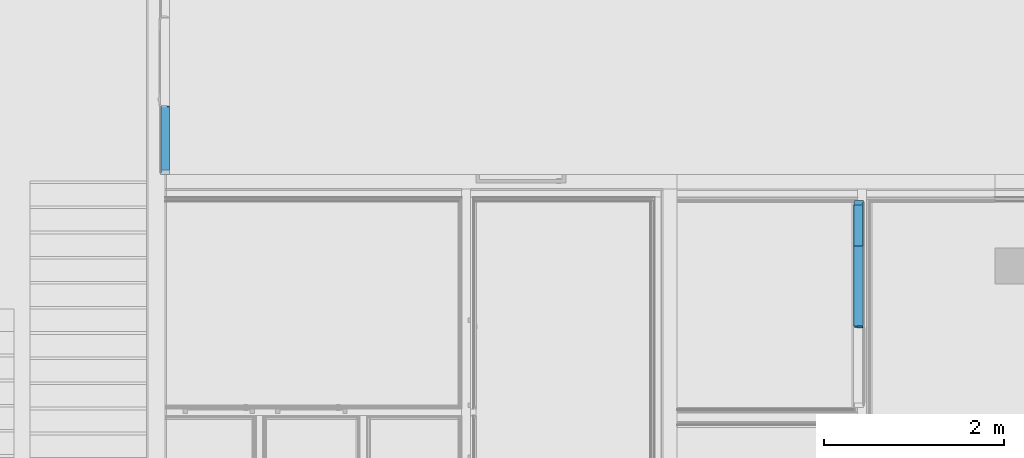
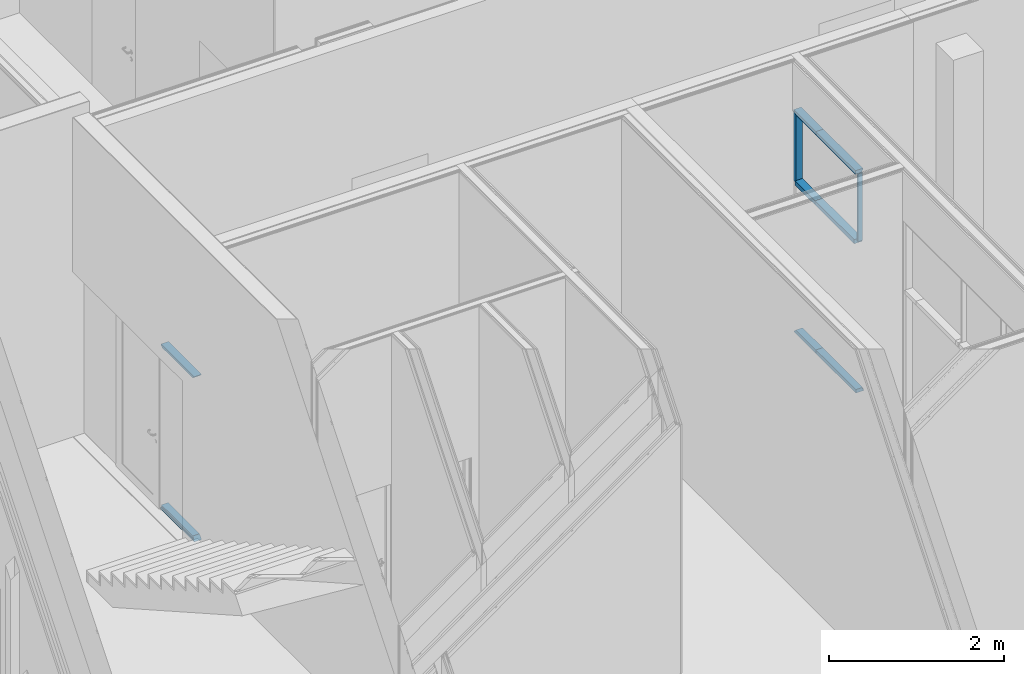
# One storey, part 96 of 260: 10 members, 2 elements without a shape of their own.
"""IFC2X3 building model written with IfcOpenShell, lengths in millimetres."""

from ifc_helpers import new_model, entity, si_unit, converted_unit, derived_unit, money_unit, direction, frame, origin_with_axes, place, context, subcontext, project, spatial, faceted_brep, material, type_object, element, aggregate, save


model = new_model("IFC2X3")

# Units and contexts
model_context = context("Model", 3, precision=0.01, world=origin_with_axes(), true_north=direction((0.0, 1.0)))
body_context = subcontext(model_context, "Body", "Model", "MODEL_VIEW")
ifc_project = project(units=[si_unit("LENGTHUNIT", "METRE", prefix="MILLI"), si_unit("AREAUNIT", "SQUARE_METRE"), si_unit("VOLUMEUNIT", "CUBIC_METRE"), converted_unit("PLANEANGLEUNIT", "DEGREE", entity("IfcPlaneAngleMeasure", 0.0174532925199), si_unit("PLANEANGLEUNIT", "RADIAN"), dimensions=[0, 0, 0, 0, 0, 0, 0]), money_unit("EUR"), converted_unit("TIMEUNIT", "Year", entity("IfcTimeMeasure", 31556926.0), si_unit("TIMEUNIT", "SECOND"), dimensions=[0, 0, 1, 0, 0, 0, 0]), si_unit("MASSUNIT", "GRAM", prefix="KILO"), si_unit("THERMODYNAMICTEMPERATUREUNIT", "DEGREE_CELSIUS"), si_unit("LUMINOUSINTENSITYUNIT", "LUMEN"), si_unit("ENERGYUNIT", "JOULE", prefix="MEGA"), derived_unit("THERMALCONDUCTANCEUNIT", [(si_unit("POWERUNIT", "WATT"), 1), (si_unit("LENGTHUNIT", "METRE"), -1), (si_unit("THERMODYNAMICTEMPERATUREUNIT", "KELVIN"), -1)]), derived_unit("SPECIFICHEATCAPACITYUNIT", [(si_unit("ENERGYUNIT", "JOULE"), 1), (si_unit("MASSUNIT", "GRAM", prefix="KILO"), -1), (si_unit("THERMODYNAMICTEMPERATUREUNIT", "KELVIN"), -1)]), derived_unit("MASSDENSITYUNIT", [(si_unit("MASSUNIT", "GRAM", prefix="KILO"), 1), (si_unit("VOLUMEUNIT", "CUBIC_METRE"), -1)])], contexts=[model_context])

# Site, building, storey
site_placement = place(None, origin_with_axes())
site = spatial("IfcSite", under=ifc_project, at=site_placement, Name="Kolde pst 67a", CompositionType="ELEMENT")
building_placement = place(site_placement, origin_with_axes())
building = spatial("IfcBuilding", under=site, at=building_placement, Name="Riigigümnaasium", CompositionType="ELEMENT")
storey_placement = place(building_placement, origin_with_axes())
storey = spatial("IfcBuildingStorey", under=building, at=storey_placement, Name="1. korrus", CompositionType="ELEMENT", Elevation=0.0)

# Curtain wall, members
curtain_wall_type = type_object("IfcCurtainWallType", Name="Curtain Wall Type", PredefinedType="NOTDEFINED")
curtain_wall_1_placement = place(storey_placement, frame((3185.44852283, 58094.9979478, 0.0), z_axis=(0.0, 0.0, 1.0), x_axis=(1.0, 0.0, 0.0)))
curtain_wall_1 = element("IfcCurtainWall", 1, at=curtain_wall_1_placement, inside=storey, type_object=curtain_wall_type, Name="KLAASSEIN")
ifc_material_1 = material(Name="_GENEERILINE MATERJAL")
member_type_1 = type_object("IfcMemberType", Name="Boundary Frame 50 x 100", PredefinedType="MEMBER")
member_1_placement = place(curtain_wall_1_placement, frame((0.0, -500.0, 2300.00008941), z_axis=(0.0, -1.0, 0.0), x_axis=(0.0, 0.0, 1.0)))
member_1 = element("IfcMember", 2, at=member_1_placement, type_object=member_type_1, material=ifc_material_1, Name="RF RAAM SERV-192", ObjectType="MEMBER", context=body_context, shape_type="Brep", body=[
    faceted_brep([(-50.0, -10.0, 0.0), (-50.0, -100.0, 0.0), (-50.0, -100.0, 705.000008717), (-50.0, -10.0, 705.000008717), (-25.0, -10.0, 0.0), (-25.0, 0.0, 0.0), (0.0, 0.0, 0.0), (0.0, -100.0, 0.0), (0.0, -100.0, 755.000008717), (-25.0, -10.0, 730.000008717), (0.0, 0.0, 755.000008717), (-25.0, 0.0, 730.000008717)], [[[0, 1, 2, 3]], [[4, 5, 6, 7, 1, 0]], [[1, 7, 8, 2]], [[9, 3, 2, 8, 10, 11]], [[9, 4, 0, 3]], [[5, 4, 9, 11]], [[11, 10, 6, 5]], [[7, 6, 10, 8]]]),
])
member_2_placement = place(curtain_wall_1_placement, frame((0.0, -500.0, 0.0), z_axis=(0.0, -1.0, 0.0), x_axis=(0.0, 0.0, 1.0)))
member_2 = element("IfcMember", 3, at=member_2_placement, type_object=member_type_1, material=ifc_material_1, Name="RF RAAM SERV-190", ObjectType="MEMBER", context=body_context, shape_type="Brep", body=[
    faceted_brep([(50.0, -10.0, -10.0), (50.0, -10.0, 705.000008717), (50.0, -100.0, 705.000008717), (50.0, -100.0, -10.0), (25.0, -10.0, 730.000008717), (25.0, -10.0, -10.0), (25.0, 0.0, 730.000008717), (0.0, 0.0, 755.000008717), (0.0, -100.0, 755.000008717), (0.0, -100.0, -10.0), (0.0, 0.0, -10.0), (25.0, 0.0, -10.0)], [[[0, 1, 2, 3]], [[4, 1, 0, 5]], [[4, 6, 7, 8, 2, 1]], [[3, 2, 8, 9]], [[5, 0, 3, 9, 10, 11]], [[11, 6, 4, 5]], [[6, 11, 10, 7]], [[9, 8, 7, 10]]]),
])
aggregate(curtain_wall_1, [member_1, member_2])

curtain_wall_2_placement = place(storey_placement, frame((11015.6058867, 55913.7308132, 399.999999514), z_axis=(0.0, 0.0, 1.0), x_axis=(1.0, 0.0, 0.0)))
curtain_wall_2 = element("IfcCurtainWall", 4, at=curtain_wall_2_placement, inside=storey, type_object=curtain_wall_type, Name="KLAASSEIN")
member_3_placement = place(curtain_wall_2_placement, frame((0.00145192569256, 130.630049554, 4.86439333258e-07), z_axis=(-1.11147909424e-05, -0.999999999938, 0.0), x_axis=(0.0, 0.0, 1.0)))
member_3 = element("IfcMember", 5, at=member_3_placement, type_object=member_type_1, material=ifc_material_1, Name="RF RAAM SERV-341", ObjectType="MEMBER", context=body_context, shape_type="Brep", body=[
    faceted_brep([(50.0, 10.0, 0.0), (50.0, 100.0, 2.91322521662e-10), (50.0, 99.9999999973, 910.0), (50.0, 9.99999999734, 910.0), (25.0, 10.0, 0.0), (25.0, 0.0, 0.0), (0.0, 0.0, 0.0), (0.0, 100.0, 2.91322521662e-10), (0.0, 99.9999999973, 910.0), (25.0, 9.99999999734, 910.0), (0.0, -2.65742983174e-09, 910.0), (25.0, -2.65742983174e-09, 910.0)], [[[0, 1, 2, 3]], [[4, 5, 6, 7, 1, 0]], [[1, 7, 8, 2]], [[9, 3, 2, 8, 10, 11]], [[9, 4, 0, 3]], [[5, 4, 9, 11]], [[11, 10, 6, 5]], [[7, 6, 10, 8]]]),
])
member_4_placement = place(curtain_wall_2_placement, frame((-0.00855138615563, -769.36995039, 3090.00002835), z_axis=(1.11147909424e-05, 0.999999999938, 0.0), x_axis=(0.0, 0.0, -1.0)))
member_4 = element("IfcMember", 6, at=member_4_placement, type_object=member_type_1, material=ifc_material_1, Name="RF RAAM SERV-346", ObjectType="MEMBER", context=body_context, shape_type="Brep", body=[
    faceted_brep([(50.0, 10.0, 0.0), (50.0, 100.0, -2.91322521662e-10), (50.0, 100.000000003, 900.0), (50.0, 10.0000000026, 900.0), (25.0, 10.0, 0.0), (25.0, 0.0, 0.0), (0.0, 0.0, 0.0), (0.0, 100.0, -2.91322521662e-10), (0.0, 100.000000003, 900.0), (25.0, 10.0000000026, 900.0), (0.0, 2.62723176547e-09, 900.0), (25.0, 2.62723176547e-09, 900.0)], [[[0, 1, 2, 3]], [[4, 5, 6, 7, 1, 0]], [[1, 7, 8, 2]], [[9, 3, 2, 8, 10, 11]], [[9, 4, 0, 3]], [[5, 4, 9, 11]], [[11, 10, 6, 5]], [[7, 6, 10, 8]]]),
])
member_5_placement = place(curtain_wall_2_placement, frame((0.007099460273, 638.739883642, 3090.00002835), z_axis=(0.0, 1.73682195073e-08, -1.0), x_axis=(-1.11147909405e-05, -0.999999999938, -1.73682195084e-08)))
member_5 = element("IfcMember", 7, at=member_5_placement, type_object=member_type_1, material=ifc_material_1, Name="RF RAAM SERV-348", ObjectType="MEMBER", context=body_context, shape_type="Brep", body=[
    faceted_brep([(50.0000008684, 10.0, 49.9999982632), (50.0000008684, 100.0, 49.9999982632), (50.0000171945, 100.0, 990.000001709), (50.0000171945, 10.0, 990.000001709), (25.0000004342, 10.0, 24.9999991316), (25.0000004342, 0.0, 24.9999991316), (0.0, 0.0, 0.0), (0.0, 100.0, 0.0), (1.71945373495e-05, 100.0, 990.000002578), (25.0000171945, 10.0, 990.000002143), (1.71945373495e-05, 0.0, 990.000002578), (25.0000171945, 0.0, 990.000002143)], [[[0, 1, 2, 3]], [[4, 5, 6, 7, 1, 0]], [[2, 1, 7, 8]], [[9, 3, 2, 8, 10, 11]], [[9, 4, 0, 3]], [[5, 4, 9, 11]], [[11, 10, 6, 5]], [[8, 7, 6, 10]]]),
])
member_6_placement = place(curtain_wall_2_placement, frame((0.00145192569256, 130.630049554, 3090.00002835), z_axis=(1.11147909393e-05, 0.999999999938, 0.0), x_axis=(0.0, 0.0, -1.0)))
member_6 = element("IfcMember", 8, at=member_6_placement, type_object=member_type_1, material=ifc_material_1, Name="RF RAAM SERV-347", ObjectType="MEMBER", context=body_context, shape_type="Brep", body=[
    faceted_brep([(50.0, 10.0, 0.0), (50.0, 100.0, -2.91322521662e-10), (50.0, 100.000000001, 458.109834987), (50.0, 10.0000000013, 458.109834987), (25.0, 10.0, 0.0), (25.0, 0.0, 0.0), (0.0, 0.0, 0.0), (0.0, 100.0, -2.91322521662e-10), (0.0, 100.000000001, 508.109834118), (25.0, 10.0000000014, 483.109834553), (0.0, 1.48503431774e-09, 508.109834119), (25.0, 1.41220368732e-09, 483.109834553)], [[[0, 1, 2, 3]], [[4, 5, 6, 7, 1, 0]], [[1, 7, 8, 2]], [[9, 3, 2, 8, 10, 11]], [[9, 4, 0, 3]], [[5, 4, 9, 11]], [[11, 10, 6, 5]], [[7, 6, 10, 8]]]),
])
member_7_placement = place(curtain_wall_2_placement, frame((0.00709946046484, 638.739900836, 4.86439333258e-07), z_axis=(-1.11147909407e-05, -0.999999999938, 0.0), x_axis=(0.0, 0.0, 1.0)))
member_7 = element("IfcMember", 9, at=member_7_placement, type_object=member_type_1, material=ifc_material_1, Name="RF RAAM SERV-340", ObjectType="MEMBER", context=body_context, shape_type="Brep", body=[
    faceted_brep([(50.0, 9.99999999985, 50.0), (50.0, 99.9999999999, 50.0000000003), (50.0, 99.9999999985, 508.109851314), (50.0, 9.99999999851, 508.109851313), (25.0, 9.99999999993, 25.0), (25.0, 0.0, 25.0), (0.0, 0.0, 0.0), (0.0, 100.0, 2.91322521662e-10), (0.0, 99.9999999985, 508.109851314), (25.0, 9.99999999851, 508.109851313), (0.0, -1.48503431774e-09, 508.109851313), (25.0, -1.48503431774e-09, 508.109851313)], [[[0, 1, 2, 3]], [[4, 5, 6, 7, 1, 0]], [[2, 1, 7, 8]], [[9, 3, 2, 8, 10, 11]], [[9, 4, 0, 3]], [[5, 4, 9, 11]], [[11, 10, 6, 5]], [[8, 7, 6, 10]]]),
])
member_type_2 = type_object("IfcMemberType", Name="Transom Frame 60 x 100", PredefinedType="MEMBER")
member_8_placement = place(curtain_wall_2_placement, frame((0.00709946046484, 638.739900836, 2100.00002621), z_axis=(-1.11147909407e-05, -0.999999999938, 0.0), x_axis=(0.0, 0.0, 1.0)))
member_8 = element("IfcMember", 10, at=member_8_placement, type_object=member_type_2, material=ifc_material_1, Name="RF RAAM HOR-436", ObjectType="MEMBER", context=body_context, shape_type="Brep", body=[
    faceted_brep([(30.0, 9.99999999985, 50.0), (30.0, 110.0, 50.0000000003), (30.0, 109.999999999, 508.109851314), (30.0, 9.99999999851, 508.109851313), (-30.0, 9.99999999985, 50.0), (-30.0, 110.0, 50.0000000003), (-30.0, 109.999999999, 508.109851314), (-30.0, 9.99999999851, 508.109851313)], [[[0, 1, 2, 3]], [[1, 0, 4, 5]], [[1, 5, 6, 2]], [[2, 6, 7, 3]], [[4, 0, 3, 7]], [[5, 4, 7, 6]]]),
])
member_9_placement = place(curtain_wall_2_placement, frame((0.00145192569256, 130.630049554, 2100.00002621), z_axis=(-1.11147909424e-05, -0.999999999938, 0.0), x_axis=(0.0, 0.0, 1.0)))
member_9 = element("IfcMember", 11, at=member_9_placement, type_object=member_type_2, material=ifc_material_1, Name="RF RAAM HOR-435", ObjectType="MEMBER", context=body_context, shape_type="Brep", body=[
    faceted_brep([(30.0, 110.0, 3.2684965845e-10), (30.0, 109.999999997, 890.0), (30.0, 9.9999999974, 890.0), (30.0, 10.0, 0.0), (-30.0, 110.0, 3.2684965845e-10), (-30.0, 109.999999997, 890.0), (-30.0, 9.9999999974, 890.0), (-30.0, 10.0, 0.0)], [[[0, 1, 2, 3]], [[4, 5, 1, 0]], [[1, 5, 6, 2]], [[3, 2, 6, 7]], [[0, 3, 7, 4]], [[7, 6, 5, 4]]]),
])
ifc_material_2 = material(Name="_METALL - alumiinium")
member_type_3 = type_object("IfcMemberType", Name="Mullion Frame 20 x 70", PredefinedType="MEMBER")
member_10_placement = place(curtain_wall_2_placement, frame((-0.00855138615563, -769.36995039, 2100.00002621), z_axis=(0.0, 0.0, 1.0), x_axis=(1.11147909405e-05, 0.999999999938, 0.0)))
member_10 = element("IfcMember", 12, at=member_10_placement, type_object=member_type_3, material=ifc_material_2, Name="RF RAAM VERT-401", ObjectType="MEMBER", context=body_context, shape_type="Brep", body=[
    faceted_brep([(0.0, 10.0, 0.0), (10.0, 10.0, 0.0), (10.0, 10.0, 940.000002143), (0.0, 10.0, 940.000002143), (-10.0, 10.0, 940.000002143), (-10.0, 10.0, 0.0), (-10.0, 70.0, 0.0), (10.0, 70.0, 0.0), (10.0, 70.0, 940.000002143), (-10.0, 70.0, 940.000002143)], [[[0, 1, 2, 3, 4, 5]], [[5, 6, 7, 1, 0]], [[2, 1, 7, 8]], [[3, 2, 8, 9, 4]], [[4, 9, 6, 5]], [[8, 7, 6, 9]]]),
])
aggregate(curtain_wall_2, [member_8, member_3, member_9, member_10, member_4, member_5, member_6, member_7])

save(model, "model.ifc")
